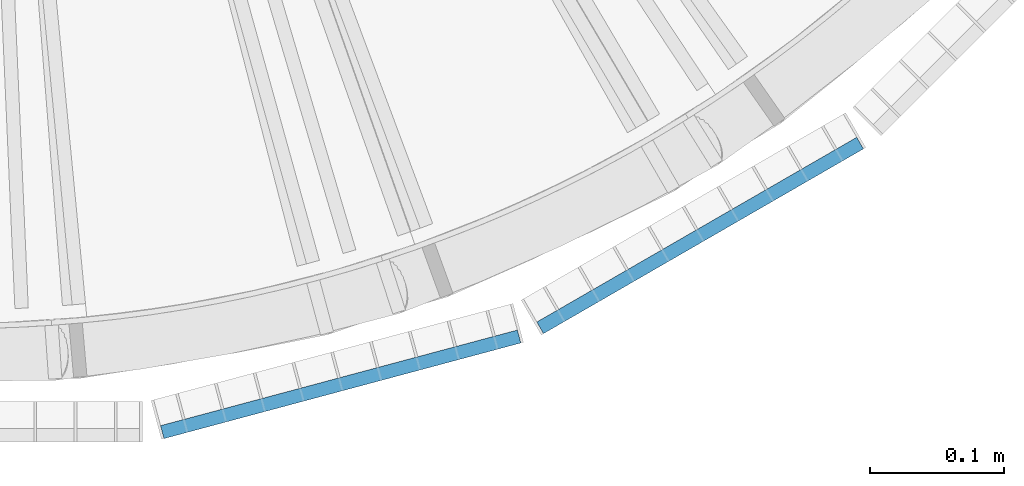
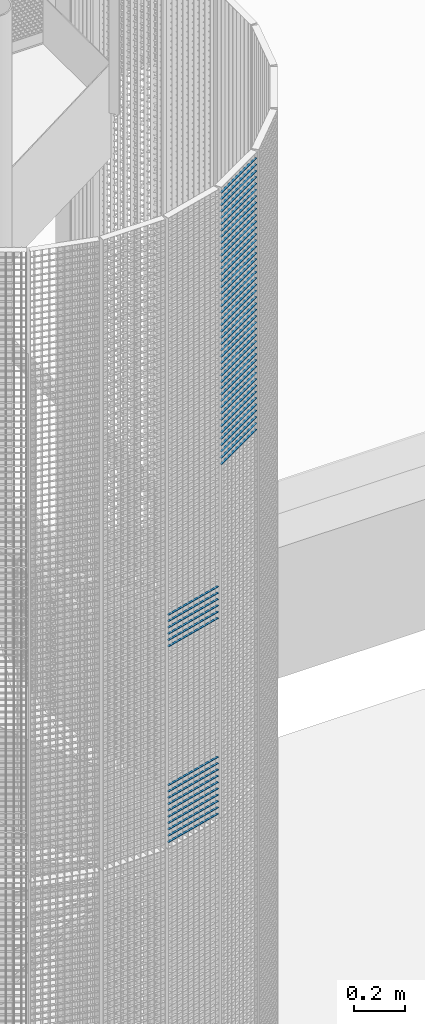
# One storey, part 378 of 1148: 60 beams, 2 elements without a shape of their own.
"""IFC2X3 building model written with IfcOpenShell, lengths in millimetres."""

from ifc_helpers import new_model, si_unit, frame, origin_with_axes, origin_2d_with_axis, place, context, subcontext, project, spatial, rectangle, extrude, material, type_object, element, aggregate, save


model = new_model("IFC2X3")

# Units and contexts
model_context = context("Model", 3, precision=1e-05, world=origin_with_axes())
body_context = subcontext(model_context, "Body", "Model", "MODEL_VIEW")
ifc_project = project(units=[si_unit("LENGTHUNIT", "METRE", prefix="MILLI"), si_unit("AREAUNIT", "SQUARE_METRE"), si_unit("VOLUMEUNIT", "CUBIC_METRE"), si_unit("MASSUNIT", "GRAM", prefix="KILO"), si_unit("TIMEUNIT", "SECOND"), si_unit("PLANEANGLEUNIT", "RADIAN"), si_unit("SOLIDANGLEUNIT", "STERADIAN"), si_unit("THERMODYNAMICTEMPERATUREUNIT", "DEGREE_CELSIUS"), si_unit("LUMINOUSINTENSITYUNIT", "LUMEN")], contexts=[model_context])

# Site, building, storey
site_placement = place(None, origin_with_axes())
site = spatial("IfcSite", under=ifc_project, at=site_placement, Name="Undefined", CompositionType="ELEMENT")
building_placement = place(site_placement, origin_with_axes())
building = spatial("IfcBuilding", under=site, at=building_placement, Name="Undefined", CompositionType="ELEMENT")
storey_placement = place(building_placement, origin_with_axes())
storey = spatial("IfcBuildingStorey", under=building, at=storey_placement, Name="Undefined", CompositionType="ELEMENT", Elevation=0.0)

# Assembly, beams
assembly_1_placement = place(storey_placement, origin_with_axes())
assembly_1 = element("IfcElementAssembly", 1, at=assembly_1_placement, inside=storey, Name="BORDURE", AssemblyPlace="NOTDEFINED", PredefinedType="NOTDEFINED")
ifc_material = material(Name="STEEL/S235JR")
beam_type = type_object("IfcBeamType", Name="PL2*10", PredefinedType="NOTDEFINED")
beam_1_placement = place(assembly_1_placement, frame((22021.4837339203, -1039.82309522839, 15960.0), z_axis=(0.258819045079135, -0.965925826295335, 0.0), x_axis=(-0.965925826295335, -0.258819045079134, 0.0)))
beam_1 = element("IfcBeam", 2, at=beam_1_placement, type_object=beam_type, material=ifc_material, Name="ENTRETOISE", context=body_context, shape_type="SweptSolid", body=[
    extrude(rectangle(XDim=2.0, YDim=10.0, at=origin_2d_with_axis()), frame((275.999999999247, 9.09494701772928e-13, 1.53210777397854e-14), z_axis=(-1.0, 0.0, 0.0), x_axis=(0.0, -1.0, 0.0)), (0.0, 0.0, 1.0), 276.0),
])
beam_2_placement = place(assembly_1_placement, frame((22021.4837339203, -1039.82309522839, 15300.0), z_axis=(0.258819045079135, -0.965925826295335, 0.0), x_axis=(-0.965925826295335, -0.258819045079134, 0.0)))
beam_2 = element("IfcBeam", 3, at=beam_2_placement, type_object=beam_type, material=ifc_material, Name="ENTRETOISE", context=body_context, shape_type="SweptSolid", body=[
    extrude(rectangle(XDim=2.0, YDim=10.0, at=origin_2d_with_axis()), frame((275.999999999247, 9.09494701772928e-13, 1.53210777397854e-14), z_axis=(-1.0, 0.0, 0.0), x_axis=(0.0, -1.0, 0.0)), (0.0, 0.0, 1.0), 276.0),
])
beam_3_placement = place(assembly_1_placement, frame((22021.4837339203, -1039.82309522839, 15270.0), z_axis=(0.258819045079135, -0.965925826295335, 0.0), x_axis=(-0.965925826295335, -0.258819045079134, 0.0)))
beam_3 = element("IfcBeam", 4, at=beam_3_placement, type_object=beam_type, material=ifc_material, Name="ENTRETOISE", context=body_context, shape_type="SweptSolid", body=[
    extrude(rectangle(XDim=2.0, YDim=10.0, at=origin_2d_with_axis()), frame((275.999999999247, 9.09494701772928e-13, 1.53210777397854e-14), z_axis=(-1.0, 0.0, 0.0), x_axis=(0.0, -1.0, 0.0)), (0.0, 0.0, 1.0), 276.0),
])
beam_4_placement = place(assembly_1_placement, frame((22021.4837339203, -1039.82309522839, 15990.0), z_axis=(0.258819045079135, -0.965925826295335, 0.0), x_axis=(-0.965925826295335, -0.258819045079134, 0.0)))
beam_4 = element("IfcBeam", 5, at=beam_4_placement, type_object=beam_type, material=ifc_material, Name="ENTRETOISE", context=body_context, shape_type="SweptSolid", body=[
    extrude(rectangle(XDim=2.0, YDim=10.0, at=origin_2d_with_axis()), frame((275.999999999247, 9.09494701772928e-13, 1.53210777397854e-14), z_axis=(-1.0, 0.0, 0.0), x_axis=(0.0, -1.0, 0.0)), (0.0, 0.0, 1.0), 276.0),
])
beam_5_placement = place(assembly_1_placement, frame((22021.4837339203, -1039.82309522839, 15240.0), z_axis=(0.258819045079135, -0.965925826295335, 0.0), x_axis=(-0.965925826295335, -0.258819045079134, 0.0)))
beam_5 = element("IfcBeam", 6, at=beam_5_placement, type_object=beam_type, material=ifc_material, Name="ENTRETOISE", context=body_context, shape_type="SweptSolid", body=[
    extrude(rectangle(XDim=2.0, YDim=10.0, at=origin_2d_with_axis()), frame((275.999999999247, 9.09494701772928e-13, 1.53210777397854e-14), z_axis=(-1.0, 0.0, 0.0), x_axis=(0.0, -1.0, 0.0)), (0.0, 0.0, 1.0), 276.0),
])
beam_6_placement = place(assembly_1_placement, frame((22021.4837339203, -1039.82309522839, 16020.0), z_axis=(0.258819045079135, -0.965925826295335, 0.0), x_axis=(-0.965925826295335, -0.258819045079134, 0.0)))
beam_6 = element("IfcBeam", 7, at=beam_6_placement, type_object=beam_type, material=ifc_material, Name="ENTRETOISE", context=body_context, shape_type="SweptSolid", body=[
    extrude(rectangle(XDim=2.0, YDim=10.0, at=origin_2d_with_axis()), frame((275.999999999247, 9.09494701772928e-13, 1.53210777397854e-14), z_axis=(-1.0, 0.0, 0.0), x_axis=(0.0, -1.0, 0.0)), (0.0, 0.0, 1.0), 276.0),
])
beam_7_placement = place(assembly_1_placement, frame((22021.4837339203, -1039.82309522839, 15210.0), z_axis=(0.258819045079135, -0.965925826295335, 0.0), x_axis=(-0.965925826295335, -0.258819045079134, 0.0)))
beam_7 = element("IfcBeam", 8, at=beam_7_placement, type_object=beam_type, material=ifc_material, Name="ENTRETOISE", context=body_context, shape_type="SweptSolid", body=[
    extrude(rectangle(XDim=2.0, YDim=10.0, at=origin_2d_with_axis()), frame((275.999999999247, 9.09494701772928e-13, 1.53210777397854e-14), z_axis=(-1.0, 0.0, 0.0), x_axis=(0.0, -1.0, 0.0)), (0.0, 0.0, 1.0), 276.0),
])
beam_8_placement = place(assembly_1_placement, frame((22021.4837339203, -1039.82309522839, 15180.0), z_axis=(0.258819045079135, -0.965925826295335, 0.0), x_axis=(-0.965925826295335, -0.258819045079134, 0.0)))
beam_8 = element("IfcBeam", 9, at=beam_8_placement, type_object=beam_type, material=ifc_material, Name="ENTRETOISE", context=body_context, shape_type="SweptSolid", body=[
    extrude(rectangle(XDim=2.0, YDim=10.0, at=origin_2d_with_axis()), frame((275.999999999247, 9.09494701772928e-13, 1.53210777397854e-14), z_axis=(-1.0, 0.0, 0.0), x_axis=(0.0, -1.0, 0.0)), (0.0, 0.0, 1.0), 276.0),
])
beam_9_placement = place(assembly_1_placement, frame((22021.4837339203, -1039.82309522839, 16050.0), z_axis=(0.258819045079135, -0.965925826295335, 0.0), x_axis=(-0.965925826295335, -0.258819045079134, 0.0)))
beam_9 = element("IfcBeam", 10, at=beam_9_placement, type_object=beam_type, material=ifc_material, Name="ENTRETOISE", context=body_context, shape_type="SweptSolid", body=[
    extrude(rectangle(XDim=2.0, YDim=10.0, at=origin_2d_with_axis()), frame((275.999999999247, 9.09494701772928e-13, 1.53210777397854e-14), z_axis=(-1.0, 0.0, 0.0), x_axis=(0.0, -1.0, 0.0)), (0.0, 0.0, 1.0), 276.0),
])
beam_10_placement = place(assembly_1_placement, frame((22021.4837339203, -1039.82309522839, 15150.0), z_axis=(0.258819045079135, -0.965925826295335, 0.0), x_axis=(-0.965925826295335, -0.258819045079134, 0.0)))
beam_10 = element("IfcBeam", 11, at=beam_10_placement, type_object=beam_type, material=ifc_material, Name="ENTRETOISE", context=body_context, shape_type="SweptSolid", body=[
    extrude(rectangle(XDim=2.0, YDim=10.0, at=origin_2d_with_axis()), frame((275.999999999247, 9.09494701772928e-13, 1.53210777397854e-14), z_axis=(-1.0, 0.0, 0.0), x_axis=(0.0, -1.0, 0.0)), (0.0, 0.0, 1.0), 276.0),
])
beam_11_placement = place(assembly_1_placement, frame((22021.4837339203, -1039.82309522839, 15120.0), z_axis=(0.258819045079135, -0.965925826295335, 0.0), x_axis=(-0.965925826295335, -0.258819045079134, 0.0)))
beam_11 = element("IfcBeam", 12, at=beam_11_placement, type_object=beam_type, material=ifc_material, Name="ENTRETOISE", context=body_context, shape_type="SweptSolid", body=[
    extrude(rectangle(XDim=2.0, YDim=10.0, at=origin_2d_with_axis()), frame((275.999999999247, 9.09494701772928e-13, 1.53210777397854e-14), z_axis=(-1.0, 0.0, 0.0), x_axis=(0.0, -1.0, 0.0)), (0.0, 0.0, 1.0), 276.0),
])
beam_12_placement = place(assembly_1_placement, frame((22021.4837339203, -1039.82309522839, 16080.0), z_axis=(0.258819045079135, -0.965925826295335, 0.0), x_axis=(-0.965925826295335, -0.258819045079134, 0.0)))
beam_12 = element("IfcBeam", 13, at=beam_12_placement, type_object=beam_type, material=ifc_material, Name="ENTRETOISE", context=body_context, shape_type="SweptSolid", body=[
    extrude(rectangle(XDim=2.0, YDim=10.0, at=origin_2d_with_axis()), frame((275.999999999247, 9.09494701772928e-13, 1.53210777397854e-14), z_axis=(-1.0, 0.0, 0.0), x_axis=(0.0, -1.0, 0.0)), (0.0, 0.0, 1.0), 276.0),
])
beam_13_placement = place(assembly_1_placement, frame((22021.4837339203, -1039.82309522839, 15090.0), z_axis=(0.258819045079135, -0.965925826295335, 0.0), x_axis=(-0.965925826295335, -0.258819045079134, 0.0)))
beam_13 = element("IfcBeam", 14, at=beam_13_placement, type_object=beam_type, material=ifc_material, Name="ENTRETOISE", context=body_context, shape_type="SweptSolid", body=[
    extrude(rectangle(XDim=2.0, YDim=10.0, at=origin_2d_with_axis()), frame((275.999999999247, 9.09494701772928e-13, 1.53210777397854e-14), z_axis=(-1.0, 0.0, 0.0), x_axis=(0.0, -1.0, 0.0)), (0.0, 0.0, 1.0), 276.0),
])
beam_14_placement = place(assembly_1_placement, frame((22021.4837339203, -1039.82309522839, 15060.0), z_axis=(0.258819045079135, -0.965925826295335, 0.0), x_axis=(-0.965925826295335, -0.258819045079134, 0.0)))
beam_14 = element("IfcBeam", 15, at=beam_14_placement, type_object=beam_type, material=ifc_material, Name="ENTRETOISE", context=body_context, shape_type="SweptSolid", body=[
    extrude(rectangle(XDim=2.0, YDim=10.0, at=origin_2d_with_axis()), frame((275.999999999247, 9.09494701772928e-13, 1.53210777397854e-14), z_axis=(-1.0, 0.0, 0.0), x_axis=(0.0, -1.0, 0.0)), (0.0, 0.0, 1.0), 276.0),
])
beam_15_placement = place(assembly_1_placement, frame((22021.4837339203, -1039.82309522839, 16110.0), z_axis=(0.258819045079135, -0.965925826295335, 0.0), x_axis=(-0.965925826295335, -0.258819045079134, 0.0)))
beam_15 = element("IfcBeam", 16, at=beam_15_placement, type_object=beam_type, material=ifc_material, Name="ENTRETOISE", context=body_context, shape_type="SweptSolid", body=[
    extrude(rectangle(XDim=2.0, YDim=10.0, at=origin_2d_with_axis()), frame((275.999999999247, 9.09494701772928e-13, 1.53210777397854e-14), z_axis=(-1.0, 0.0, 0.0), x_axis=(0.0, -1.0, 0.0)), (0.0, 0.0, 1.0), 276.0),
])
beam_16_placement = place(assembly_1_placement, frame((22021.4837339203, -1039.82309522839, 15030.0), z_axis=(0.258819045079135, -0.965925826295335, 0.0), x_axis=(-0.965925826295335, -0.258819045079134, 0.0)))
beam_16 = element("IfcBeam", 17, at=beam_16_placement, type_object=beam_type, material=ifc_material, Name="ENTRETOISE", context=body_context, shape_type="SweptSolid", body=[
    extrude(rectangle(XDim=2.0, YDim=10.0, at=origin_2d_with_axis()), frame((275.999999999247, 9.09494701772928e-13, 1.53210777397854e-14), z_axis=(-1.0, 0.0, 0.0), x_axis=(0.0, -1.0, 0.0)), (0.0, 0.0, 1.0), 276.0),
])
aggregate(assembly_1, [beam_1, beam_2, beam_3, beam_4, beam_5, beam_6, beam_7, beam_8, beam_9, beam_10, beam_11, beam_12, beam_13, beam_14, beam_15, beam_16])

assembly_2_placement = place(storey_placement, origin_with_axes())
assembly_2 = element("IfcElementAssembly", 18, at=assembly_2_placement, inside=storey, Name="BORDURE", AssemblyPlace="NOTDEFINED", PredefinedType="NOTDEFINED")
beam_17_placement = place(assembly_2_placement, frame((22276.2480445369, -895.303964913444, 17970.0), z_axis=(0.499999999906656, -0.866025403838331, 0.0), x_axis=(-0.866025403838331, -0.499999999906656, 0.0)))
beam_17 = element("IfcBeam", 19, at=beam_17_placement, type_object=beam_type, material=ifc_material, Name="ENTRETOISE", context=body_context, shape_type="SweptSolid", body=[
    extrude(rectangle(XDim=2.0, YDim=10.0, at=origin_2d_with_axis()), frame((275.999999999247, 9.09494701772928e-13, 1.53210777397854e-14), z_axis=(-1.0, 0.0, 0.0), x_axis=(0.0, -1.0, 0.0)), (0.0, 0.0, 1.0), 276.0),
])
beam_18_placement = place(assembly_2_placement, frame((22276.2480445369, -895.303964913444, 17940.0), z_axis=(0.499999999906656, -0.866025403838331, 0.0), x_axis=(-0.866025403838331, -0.499999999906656, 0.0)))
beam_18 = element("IfcBeam", 20, at=beam_18_placement, type_object=beam_type, material=ifc_material, Name="ENTRETOISE", context=body_context, shape_type="SweptSolid", body=[
    extrude(rectangle(XDim=2.0, YDim=10.0, at=origin_2d_with_axis()), frame((275.999999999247, 9.09494701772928e-13, 1.53210777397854e-14), z_axis=(-1.0, 0.0, 0.0), x_axis=(0.0, -1.0, 0.0)), (0.0, 0.0, 1.0), 276.0),
])
beam_19_placement = place(assembly_2_placement, frame((22276.2480445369, -895.303964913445, 17910.0), z_axis=(0.499999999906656, -0.866025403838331, 0.0), x_axis=(-0.866025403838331, -0.499999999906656, 0.0)))
beam_19 = element("IfcBeam", 21, at=beam_19_placement, type_object=beam_type, material=ifc_material, Name="ENTRETOISE", context=body_context, shape_type="SweptSolid", body=[
    extrude(rectangle(XDim=2.0, YDim=10.0, at=origin_2d_with_axis()), frame((275.999999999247, 9.09494701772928e-13, 1.53210777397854e-14), z_axis=(-1.0, 0.0, 0.0), x_axis=(0.0, -1.0, 0.0)), (0.0, 0.0, 1.0), 276.0),
])
beam_20_placement = place(assembly_2_placement, frame((22276.2480445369, -895.303964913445, 17880.0), z_axis=(0.499999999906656, -0.866025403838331, 0.0), x_axis=(-0.866025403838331, -0.499999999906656, 0.0)))
beam_20 = element("IfcBeam", 22, at=beam_20_placement, type_object=beam_type, material=ifc_material, Name="ENTRETOISE", context=body_context, shape_type="SweptSolid", body=[
    extrude(rectangle(XDim=2.0, YDim=10.0, at=origin_2d_with_axis()), frame((275.999999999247, 9.09494701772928e-13, 1.53210777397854e-14), z_axis=(-1.0, 0.0, 0.0), x_axis=(0.0, -1.0, 0.0)), (0.0, 0.0, 1.0), 276.0),
])
beam_21_placement = place(assembly_2_placement, frame((22276.2480445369, -895.303964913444, 17850.0), z_axis=(0.499999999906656, -0.866025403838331, 0.0), x_axis=(-0.866025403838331, -0.499999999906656, 0.0)))
beam_21 = element("IfcBeam", 23, at=beam_21_placement, type_object=beam_type, material=ifc_material, Name="ENTRETOISE", context=body_context, shape_type="SweptSolid", body=[
    extrude(rectangle(XDim=2.0, YDim=10.0, at=origin_2d_with_axis()), frame((275.999999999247, 9.09494701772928e-13, 1.53210777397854e-14), z_axis=(-1.0, 0.0, 0.0), x_axis=(0.0, -1.0, 0.0)), (0.0, 0.0, 1.0), 276.0),
])
beam_22_placement = place(assembly_2_placement, frame((22276.2480445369, -895.303964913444, 17820.0), z_axis=(0.499999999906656, -0.866025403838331, 0.0), x_axis=(-0.866025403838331, -0.499999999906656, 0.0)))
beam_22 = element("IfcBeam", 24, at=beam_22_placement, type_object=beam_type, material=ifc_material, Name="ENTRETOISE", context=body_context, shape_type="SweptSolid", body=[
    extrude(rectangle(XDim=2.0, YDim=10.0, at=origin_2d_with_axis()), frame((275.999999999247, 9.09494701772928e-13, 1.53210777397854e-14), z_axis=(-1.0, 0.0, 0.0), x_axis=(0.0, -1.0, 0.0)), (0.0, 0.0, 1.0), 276.0),
])
beam_23_placement = place(assembly_2_placement, frame((22276.2480445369, -895.303964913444, 17790.0), z_axis=(0.499999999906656, -0.866025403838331, 0.0), x_axis=(-0.866025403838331, -0.499999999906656, 0.0)))
beam_23 = element("IfcBeam", 25, at=beam_23_placement, type_object=beam_type, material=ifc_material, Name="ENTRETOISE", context=body_context, shape_type="SweptSolid", body=[
    extrude(rectangle(XDim=2.0, YDim=10.0, at=origin_2d_with_axis()), frame((275.999999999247, 9.09494701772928e-13, 1.53210777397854e-14), z_axis=(-1.0, 0.0, 0.0), x_axis=(0.0, -1.0, 0.0)), (0.0, 0.0, 1.0), 276.0),
])
beam_24_placement = place(assembly_2_placement, frame((22276.2480445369, -895.303964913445, 17760.0), z_axis=(0.499999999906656, -0.866025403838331, 0.0), x_axis=(-0.866025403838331, -0.499999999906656, 0.0)))
beam_24 = element("IfcBeam", 26, at=beam_24_placement, type_object=beam_type, material=ifc_material, Name="ENTRETOISE", context=body_context, shape_type="SweptSolid", body=[
    extrude(rectangle(XDim=2.0, YDim=10.0, at=origin_2d_with_axis()), frame((275.999999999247, 9.09494701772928e-13, 1.53210777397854e-14), z_axis=(-1.0, 0.0, 0.0), x_axis=(0.0, -1.0, 0.0)), (0.0, 0.0, 1.0), 276.0),
])
beam_25_placement = place(assembly_2_placement, frame((22276.2480445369, -895.303964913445, 17730.0), z_axis=(0.499999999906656, -0.866025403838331, 0.0), x_axis=(-0.866025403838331, -0.499999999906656, 0.0)))
beam_25 = element("IfcBeam", 27, at=beam_25_placement, type_object=beam_type, material=ifc_material, Name="ENTRETOISE", context=body_context, shape_type="SweptSolid", body=[
    extrude(rectangle(XDim=2.0, YDim=10.0, at=origin_2d_with_axis()), frame((275.999999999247, 9.09494701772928e-13, 1.53210777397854e-14), z_axis=(-1.0, 0.0, 0.0), x_axis=(0.0, -1.0, 0.0)), (0.0, 0.0, 1.0), 276.0),
])
beam_26_placement = place(assembly_2_placement, frame((22276.2480445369, -895.303964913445, 17700.0), z_axis=(0.499999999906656, -0.866025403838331, 0.0), x_axis=(-0.866025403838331, -0.499999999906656, 0.0)))
beam_26 = element("IfcBeam", 28, at=beam_26_placement, type_object=beam_type, material=ifc_material, Name="ENTRETOISE", context=body_context, shape_type="SweptSolid", body=[
    extrude(rectangle(XDim=2.0, YDim=10.0, at=origin_2d_with_axis()), frame((275.999999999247, 9.09494701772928e-13, 1.53210777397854e-14), z_axis=(-1.0, 0.0, 0.0), x_axis=(0.0, -1.0, 0.0)), (0.0, 0.0, 1.0), 276.0),
])
beam_27_placement = place(assembly_2_placement, frame((22276.2480445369, -895.303964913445, 17670.0), z_axis=(0.499999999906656, -0.866025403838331, 0.0), x_axis=(-0.866025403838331, -0.499999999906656, 0.0)))
beam_27 = element("IfcBeam", 29, at=beam_27_placement, type_object=beam_type, material=ifc_material, Name="ENTRETOISE", context=body_context, shape_type="SweptSolid", body=[
    extrude(rectangle(XDim=2.0, YDim=10.0, at=origin_2d_with_axis()), frame((275.999999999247, 9.09494701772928e-13, 1.53210777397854e-14), z_axis=(-1.0, 0.0, 0.0), x_axis=(0.0, -1.0, 0.0)), (0.0, 0.0, 1.0), 276.0),
])
beam_28_placement = place(assembly_2_placement, frame((22276.2480445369, -895.303964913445, 17640.0), z_axis=(0.499999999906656, -0.866025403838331, 0.0), x_axis=(-0.866025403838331, -0.499999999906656, 0.0)))
beam_28 = element("IfcBeam", 30, at=beam_28_placement, type_object=beam_type, material=ifc_material, Name="ENTRETOISE", context=body_context, shape_type="SweptSolid", body=[
    extrude(rectangle(XDim=2.0, YDim=10.0, at=origin_2d_with_axis()), frame((275.999999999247, 9.09494701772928e-13, 1.53210777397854e-14), z_axis=(-1.0, 0.0, 0.0), x_axis=(0.0, -1.0, 0.0)), (0.0, 0.0, 1.0), 276.0),
])
beam_29_placement = place(assembly_2_placement, frame((22276.2480445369, -895.303964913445, 17610.0), z_axis=(0.499999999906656, -0.866025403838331, 0.0), x_axis=(-0.866025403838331, -0.499999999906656, 0.0)))
beam_29 = element("IfcBeam", 31, at=beam_29_placement, type_object=beam_type, material=ifc_material, Name="ENTRETOISE", context=body_context, shape_type="SweptSolid", body=[
    extrude(rectangle(XDim=2.0, YDim=10.0, at=origin_2d_with_axis()), frame((275.999999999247, 9.09494701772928e-13, 1.53210777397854e-14), z_axis=(-1.0, 0.0, 0.0), x_axis=(0.0, -1.0, 0.0)), (0.0, 0.0, 1.0), 276.0),
])
beam_30_placement = place(assembly_2_placement, frame((22276.2480445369, -895.303964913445, 17580.0), z_axis=(0.499999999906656, -0.866025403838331, 0.0), x_axis=(-0.866025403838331, -0.499999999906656, 0.0)))
beam_30 = element("IfcBeam", 32, at=beam_30_placement, type_object=beam_type, material=ifc_material, Name="ENTRETOISE", context=body_context, shape_type="SweptSolid", body=[
    extrude(rectangle(XDim=2.0, YDim=10.0, at=origin_2d_with_axis()), frame((275.999999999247, 9.09494701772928e-13, 1.53210777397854e-14), z_axis=(-1.0, 0.0, 0.0), x_axis=(0.0, -1.0, 0.0)), (0.0, 0.0, 1.0), 276.0),
])
beam_31_placement = place(assembly_2_placement, frame((22276.2480445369, -895.303964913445, 17550.0), z_axis=(0.499999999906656, -0.866025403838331, 0.0), x_axis=(-0.866025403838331, -0.499999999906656, 0.0)))
beam_31 = element("IfcBeam", 33, at=beam_31_placement, type_object=beam_type, material=ifc_material, Name="ENTRETOISE", context=body_context, shape_type="SweptSolid", body=[
    extrude(rectangle(XDim=2.0, YDim=10.0, at=origin_2d_with_axis()), frame((275.999999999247, 9.09494701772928e-13, 1.53210777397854e-14), z_axis=(-1.0, 0.0, 0.0), x_axis=(0.0, -1.0, 0.0)), (0.0, 0.0, 1.0), 276.0),
])
beam_32_placement = place(assembly_2_placement, frame((22276.2480445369, -895.303964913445, 17520.0), z_axis=(0.499999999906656, -0.866025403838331, 0.0), x_axis=(-0.866025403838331, -0.499999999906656, 0.0)))
beam_32 = element("IfcBeam", 34, at=beam_32_placement, type_object=beam_type, material=ifc_material, Name="ENTRETOISE", context=body_context, shape_type="SweptSolid", body=[
    extrude(rectangle(XDim=2.0, YDim=10.0, at=origin_2d_with_axis()), frame((275.999999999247, 9.09494701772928e-13, 1.53210777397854e-14), z_axis=(-1.0, 0.0, 0.0), x_axis=(0.0, -1.0, 0.0)), (0.0, 0.0, 1.0), 276.0),
])
beam_33_placement = place(assembly_2_placement, frame((22276.2480445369, -895.303964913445, 17490.0), z_axis=(0.499999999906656, -0.866025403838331, 0.0), x_axis=(-0.866025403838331, -0.499999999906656, 0.0)))
beam_33 = element("IfcBeam", 35, at=beam_33_placement, type_object=beam_type, material=ifc_material, Name="ENTRETOISE", context=body_context, shape_type="SweptSolid", body=[
    extrude(rectangle(XDim=2.0, YDim=10.0, at=origin_2d_with_axis()), frame((275.999999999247, 9.09494701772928e-13, 1.53210777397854e-14), z_axis=(-1.0, 0.0, 0.0), x_axis=(0.0, -1.0, 0.0)), (0.0, 0.0, 1.0), 276.0),
])
beam_34_placement = place(assembly_2_placement, frame((22276.2480445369, -895.303964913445, 17460.0), z_axis=(0.499999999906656, -0.866025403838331, 0.0), x_axis=(-0.866025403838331, -0.499999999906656, 0.0)))
beam_34 = element("IfcBeam", 36, at=beam_34_placement, type_object=beam_type, material=ifc_material, Name="ENTRETOISE", context=body_context, shape_type="SweptSolid", body=[
    extrude(rectangle(XDim=2.0, YDim=10.0, at=origin_2d_with_axis()), frame((275.999999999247, 9.09494701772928e-13, 1.53210777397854e-14), z_axis=(-1.0, 0.0, 0.0), x_axis=(0.0, -1.0, 0.0)), (0.0, 0.0, 1.0), 276.0),
])
beam_35_placement = place(assembly_2_placement, frame((22276.2480445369, -895.303964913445, 17430.0), z_axis=(0.499999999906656, -0.866025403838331, 0.0), x_axis=(-0.866025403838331, -0.499999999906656, 0.0)))
beam_35 = element("IfcBeam", 37, at=beam_35_placement, type_object=beam_type, material=ifc_material, Name="ENTRETOISE", context=body_context, shape_type="SweptSolid", body=[
    extrude(rectangle(XDim=2.0, YDim=10.0, at=origin_2d_with_axis()), frame((275.999999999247, 9.09494701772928e-13, 1.53210777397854e-14), z_axis=(-1.0, 0.0, 0.0), x_axis=(0.0, -1.0, 0.0)), (0.0, 0.0, 1.0), 276.0),
])
beam_36_placement = place(assembly_2_placement, frame((22276.2480445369, -895.303964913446, 17400.0), z_axis=(0.499999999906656, -0.866025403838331, 0.0), x_axis=(-0.866025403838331, -0.499999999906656, 0.0)))
beam_36 = element("IfcBeam", 38, at=beam_36_placement, type_object=beam_type, material=ifc_material, Name="ENTRETOISE", context=body_context, shape_type="SweptSolid", body=[
    extrude(rectangle(XDim=2.0, YDim=10.0, at=origin_2d_with_axis()), frame((275.999999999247, 9.09494701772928e-13, 1.53210777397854e-14), z_axis=(-1.0, 0.0, 0.0), x_axis=(0.0, -1.0, 0.0)), (0.0, 0.0, 1.0), 276.0),
])
beam_37_placement = place(assembly_2_placement, frame((22276.2480445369, -895.303964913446, 17370.0), z_axis=(0.499999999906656, -0.866025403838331, 0.0), x_axis=(-0.866025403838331, -0.499999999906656, 0.0)))
beam_37 = element("IfcBeam", 39, at=beam_37_placement, type_object=beam_type, material=ifc_material, Name="ENTRETOISE", context=body_context, shape_type="SweptSolid", body=[
    extrude(rectangle(XDim=2.0, YDim=10.0, at=origin_2d_with_axis()), frame((275.999999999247, 9.09494701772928e-13, 1.53210777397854e-14), z_axis=(-1.0, 0.0, 0.0), x_axis=(0.0, -1.0, 0.0)), (0.0, 0.0, 1.0), 276.0),
])
beam_38_placement = place(assembly_2_placement, frame((22276.2480445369, -895.303964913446, 17340.0), z_axis=(0.499999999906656, -0.866025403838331, 0.0), x_axis=(-0.866025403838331, -0.499999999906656, 0.0)))
beam_38 = element("IfcBeam", 40, at=beam_38_placement, type_object=beam_type, material=ifc_material, Name="ENTRETOISE", context=body_context, shape_type="SweptSolid", body=[
    extrude(rectangle(XDim=2.0, YDim=10.0, at=origin_2d_with_axis()), frame((275.999999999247, 9.09494701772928e-13, 1.53210777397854e-14), z_axis=(-1.0, 0.0, 0.0), x_axis=(0.0, -1.0, 0.0)), (0.0, 0.0, 1.0), 276.0),
])
beam_39_placement = place(assembly_2_placement, frame((22276.2480445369, -895.303964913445, 17310.0), z_axis=(0.499999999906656, -0.866025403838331, 0.0), x_axis=(-0.866025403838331, -0.499999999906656, 0.0)))
beam_39 = element("IfcBeam", 41, at=beam_39_placement, type_object=beam_type, material=ifc_material, Name="ENTRETOISE", context=body_context, shape_type="SweptSolid", body=[
    extrude(rectangle(XDim=2.0, YDim=10.0, at=origin_2d_with_axis()), frame((275.999999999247, 9.09494701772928e-13, 1.53210777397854e-14), z_axis=(-1.0, 0.0, 0.0), x_axis=(0.0, -1.0, 0.0)), (0.0, 0.0, 1.0), 276.0),
])
beam_40_placement = place(assembly_2_placement, frame((22276.2480445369, -895.303964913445, 17280.0), z_axis=(0.499999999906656, -0.866025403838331, 0.0), x_axis=(-0.866025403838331, -0.499999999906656, 0.0)))
beam_40 = element("IfcBeam", 42, at=beam_40_placement, type_object=beam_type, material=ifc_material, Name="ENTRETOISE", context=body_context, shape_type="SweptSolid", body=[
    extrude(rectangle(XDim=2.0, YDim=10.0, at=origin_2d_with_axis()), frame((275.999999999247, 9.09494701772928e-13, 1.53210777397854e-14), z_axis=(-1.0, 0.0, 0.0), x_axis=(0.0, -1.0, 0.0)), (0.0, 0.0, 1.0), 276.0),
])
beam_41_placement = place(assembly_2_placement, frame((22276.2480445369, -895.303964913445, 17250.0), z_axis=(0.499999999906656, -0.866025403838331, 0.0), x_axis=(-0.866025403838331, -0.499999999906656, 0.0)))
beam_41 = element("IfcBeam", 43, at=beam_41_placement, type_object=beam_type, material=ifc_material, Name="ENTRETOISE", context=body_context, shape_type="SweptSolid", body=[
    extrude(rectangle(XDim=2.0, YDim=10.0, at=origin_2d_with_axis()), frame((275.999999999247, 9.09494701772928e-13, 1.53210777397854e-14), z_axis=(-1.0, 0.0, 0.0), x_axis=(0.0, -1.0, 0.0)), (0.0, 0.0, 1.0), 276.0),
])
beam_42_placement = place(assembly_2_placement, frame((22276.2480445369, -895.303964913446, 17220.0), z_axis=(0.499999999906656, -0.866025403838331, 0.0), x_axis=(-0.866025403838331, -0.499999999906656, 0.0)))
beam_42 = element("IfcBeam", 44, at=beam_42_placement, type_object=beam_type, material=ifc_material, Name="ENTRETOISE", context=body_context, shape_type="SweptSolid", body=[
    extrude(rectangle(XDim=2.0, YDim=10.0, at=origin_2d_with_axis()), frame((275.999999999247, 9.09494701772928e-13, 1.53210777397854e-14), z_axis=(-1.0, 0.0, 0.0), x_axis=(0.0, -1.0, 0.0)), (0.0, 0.0, 1.0), 276.0),
])
beam_43_placement = place(assembly_2_placement, frame((22276.2480445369, -895.303964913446, 17190.0), z_axis=(0.499999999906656, -0.866025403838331, 0.0), x_axis=(-0.866025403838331, -0.499999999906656, 0.0)))
beam_43 = element("IfcBeam", 45, at=beam_43_placement, type_object=beam_type, material=ifc_material, Name="ENTRETOISE", context=body_context, shape_type="SweptSolid", body=[
    extrude(rectangle(XDim=2.0, YDim=10.0, at=origin_2d_with_axis()), frame((275.999999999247, 9.09494701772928e-13, 1.53210777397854e-14), z_axis=(-1.0, 0.0, 0.0), x_axis=(0.0, -1.0, 0.0)), (0.0, 0.0, 1.0), 276.0),
])
beam_44_placement = place(assembly_2_placement, frame((22276.2480445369, -895.303964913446, 17160.0), z_axis=(0.499999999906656, -0.866025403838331, 0.0), x_axis=(-0.866025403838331, -0.499999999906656, 0.0)))
beam_44 = element("IfcBeam", 46, at=beam_44_placement, type_object=beam_type, material=ifc_material, Name="ENTRETOISE", context=body_context, shape_type="SweptSolid", body=[
    extrude(rectangle(XDim=2.0, YDim=10.0, at=origin_2d_with_axis()), frame((275.999999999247, 9.09494701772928e-13, 1.53210777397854e-14), z_axis=(-1.0, 0.0, 0.0), x_axis=(0.0, -1.0, 0.0)), (0.0, 0.0, 1.0), 276.0),
])
beam_45_placement = place(assembly_2_placement, frame((22276.2480445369, -895.303964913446, 17130.0), z_axis=(0.499999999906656, -0.866025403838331, 0.0), x_axis=(-0.866025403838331, -0.499999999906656, 0.0)))
beam_45 = element("IfcBeam", 47, at=beam_45_placement, type_object=beam_type, material=ifc_material, Name="ENTRETOISE", context=body_context, shape_type="SweptSolid", body=[
    extrude(rectangle(XDim=2.0, YDim=10.0, at=origin_2d_with_axis()), frame((275.999999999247, 9.09494701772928e-13, 1.53210777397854e-14), z_axis=(-1.0, 0.0, 0.0), x_axis=(0.0, -1.0, 0.0)), (0.0, 0.0, 1.0), 276.0),
])
beam_46_placement = place(assembly_2_placement, frame((22276.2480445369, -895.303964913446, 17100.0), z_axis=(0.499999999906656, -0.866025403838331, 0.0), x_axis=(-0.866025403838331, -0.499999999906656, 0.0)))
beam_46 = element("IfcBeam", 48, at=beam_46_placement, type_object=beam_type, material=ifc_material, Name="ENTRETOISE", context=body_context, shape_type="SweptSolid", body=[
    extrude(rectangle(XDim=2.0, YDim=10.0, at=origin_2d_with_axis()), frame((275.999999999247, 9.09494701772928e-13, 1.53210777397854e-14), z_axis=(-1.0, 0.0, 0.0), x_axis=(0.0, -1.0, 0.0)), (0.0, 0.0, 1.0), 276.0),
])
beam_47_placement = place(assembly_2_placement, frame((22276.2480445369, -895.303964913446, 17070.0), z_axis=(0.499999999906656, -0.866025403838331, 0.0), x_axis=(-0.866025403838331, -0.499999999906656, 0.0)))
beam_47 = element("IfcBeam", 49, at=beam_47_placement, type_object=beam_type, material=ifc_material, Name="ENTRETOISE", context=body_context, shape_type="SweptSolid", body=[
    extrude(rectangle(XDim=2.0, YDim=10.0, at=origin_2d_with_axis()), frame((275.999999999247, 9.09494701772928e-13, 1.53210777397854e-14), z_axis=(-1.0, 0.0, 0.0), x_axis=(0.0, -1.0, 0.0)), (0.0, 0.0, 1.0), 276.0),
])
beam_48_placement = place(assembly_2_placement, frame((22276.2480445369, -895.303964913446, 17040.0), z_axis=(0.499999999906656, -0.866025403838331, 0.0), x_axis=(-0.866025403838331, -0.499999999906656, 0.0)))
beam_48 = element("IfcBeam", 50, at=beam_48_placement, type_object=beam_type, material=ifc_material, Name="ENTRETOISE", context=body_context, shape_type="SweptSolid", body=[
    extrude(rectangle(XDim=2.0, YDim=10.0, at=origin_2d_with_axis()), frame((275.999999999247, 9.09494701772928e-13, 1.53210777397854e-14), z_axis=(-1.0, 0.0, 0.0), x_axis=(0.0, -1.0, 0.0)), (0.0, 0.0, 1.0), 276.0),
])
beam_49_placement = place(assembly_2_placement, frame((22276.2480445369, -895.303964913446, 17010.0), z_axis=(0.499999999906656, -0.866025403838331, 0.0), x_axis=(-0.866025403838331, -0.499999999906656, 0.0)))
beam_49 = element("IfcBeam", 51, at=beam_49_placement, type_object=beam_type, material=ifc_material, Name="ENTRETOISE", context=body_context, shape_type="SweptSolid", body=[
    extrude(rectangle(XDim=2.0, YDim=10.0, at=origin_2d_with_axis()), frame((275.999999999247, 9.09494701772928e-13, 1.53210777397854e-14), z_axis=(-1.0, 0.0, 0.0), x_axis=(0.0, -1.0, 0.0)), (0.0, 0.0, 1.0), 276.0),
])
beam_50_placement = place(assembly_2_placement, frame((22276.2480445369, -895.303964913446, 16980.0), z_axis=(0.499999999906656, -0.866025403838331, 0.0), x_axis=(-0.866025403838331, -0.499999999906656, 0.0)))
beam_50 = element("IfcBeam", 52, at=beam_50_placement, type_object=beam_type, material=ifc_material, Name="ENTRETOISE", context=body_context, shape_type="SweptSolid", body=[
    extrude(rectangle(XDim=2.0, YDim=10.0, at=origin_2d_with_axis()), frame((275.999999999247, 9.09494701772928e-13, 1.53210777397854e-14), z_axis=(-1.0, 0.0, 0.0), x_axis=(0.0, -1.0, 0.0)), (0.0, 0.0, 1.0), 276.0),
])
beam_51_placement = place(assembly_2_placement, frame((22276.2480445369, -895.303964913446, 16950.0), z_axis=(0.499999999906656, -0.866025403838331, 0.0), x_axis=(-0.866025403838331, -0.499999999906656, 0.0)))
beam_51 = element("IfcBeam", 53, at=beam_51_placement, type_object=beam_type, material=ifc_material, Name="ENTRETOISE", context=body_context, shape_type="SweptSolid", body=[
    extrude(rectangle(XDim=2.0, YDim=10.0, at=origin_2d_with_axis()), frame((275.999999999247, 9.09494701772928e-13, 1.53210777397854e-14), z_axis=(-1.0, 0.0, 0.0), x_axis=(0.0, -1.0, 0.0)), (0.0, 0.0, 1.0), 276.0),
])
beam_52_placement = place(assembly_2_placement, frame((22276.2480445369, -895.303964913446, 16920.0), z_axis=(0.499999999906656, -0.866025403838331, 0.0), x_axis=(-0.866025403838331, -0.499999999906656, 0.0)))
beam_52 = element("IfcBeam", 54, at=beam_52_placement, type_object=beam_type, material=ifc_material, Name="ENTRETOISE", context=body_context, shape_type="SweptSolid", body=[
    extrude(rectangle(XDim=2.0, YDim=10.0, at=origin_2d_with_axis()), frame((275.999999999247, 9.09494701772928e-13, 1.53210777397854e-14), z_axis=(-1.0, 0.0, 0.0), x_axis=(0.0, -1.0, 0.0)), (0.0, 0.0, 1.0), 276.0),
])
beam_53_placement = place(assembly_2_placement, frame((22276.2480445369, -895.303964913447, 16890.0), z_axis=(0.499999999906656, -0.866025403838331, 0.0), x_axis=(-0.866025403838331, -0.499999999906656, 0.0)))
beam_53 = element("IfcBeam", 55, at=beam_53_placement, type_object=beam_type, material=ifc_material, Name="ENTRETOISE", context=body_context, shape_type="SweptSolid", body=[
    extrude(rectangle(XDim=2.0, YDim=10.0, at=origin_2d_with_axis()), frame((275.999999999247, 9.09494701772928e-13, 1.53210777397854e-14), z_axis=(-1.0, 0.0, 0.0), x_axis=(0.0, -1.0, 0.0)), (0.0, 0.0, 1.0), 276.0),
])
beam_54_placement = place(assembly_2_placement, frame((22276.2480445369, -895.303964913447, 16860.0), z_axis=(0.499999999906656, -0.866025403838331, 0.0), x_axis=(-0.866025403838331, -0.499999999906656, 0.0)))
beam_54 = element("IfcBeam", 56, at=beam_54_placement, type_object=beam_type, material=ifc_material, Name="ENTRETOISE", context=body_context, shape_type="SweptSolid", body=[
    extrude(rectangle(XDim=2.0, YDim=10.0, at=origin_2d_with_axis()), frame((275.999999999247, 9.09494701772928e-13, 1.53210777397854e-14), z_axis=(-1.0, 0.0, 0.0), x_axis=(0.0, -1.0, 0.0)), (0.0, 0.0, 1.0), 276.0),
])
beam_55_placement = place(assembly_2_placement, frame((22276.2480445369, -895.303964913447, 16830.0), z_axis=(0.499999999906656, -0.866025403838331, 0.0), x_axis=(-0.866025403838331, -0.499999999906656, 0.0)))
beam_55 = element("IfcBeam", 57, at=beam_55_placement, type_object=beam_type, material=ifc_material, Name="ENTRETOISE", context=body_context, shape_type="SweptSolid", body=[
    extrude(rectangle(XDim=2.0, YDim=10.0, at=origin_2d_with_axis()), frame((275.999999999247, 9.09494701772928e-13, 1.53210777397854e-14), z_axis=(-1.0, 0.0, 0.0), x_axis=(0.0, -1.0, 0.0)), (0.0, 0.0, 1.0), 276.0),
])
beam_56_placement = place(assembly_2_placement, frame((22276.2480445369, -895.303964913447, 16800.0), z_axis=(0.499999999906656, -0.866025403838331, 0.0), x_axis=(-0.866025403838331, -0.499999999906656, 0.0)))
beam_56 = element("IfcBeam", 58, at=beam_56_placement, type_object=beam_type, material=ifc_material, Name="ENTRETOISE", context=body_context, shape_type="SweptSolid", body=[
    extrude(rectangle(XDim=2.0, YDim=10.0, at=origin_2d_with_axis()), frame((275.999999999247, 9.09494701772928e-13, 1.53210777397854e-14), z_axis=(-1.0, 0.0, 0.0), x_axis=(0.0, -1.0, 0.0)), (0.0, 0.0, 1.0), 276.0),
])
beam_57_placement = place(assembly_2_placement, frame((22276.2480445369, -895.303964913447, 16770.0), z_axis=(0.499999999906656, -0.866025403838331, 0.0), x_axis=(-0.866025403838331, -0.499999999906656, 0.0)))
beam_57 = element("IfcBeam", 59, at=beam_57_placement, type_object=beam_type, material=ifc_material, Name="ENTRETOISE", context=body_context, shape_type="SweptSolid", body=[
    extrude(rectangle(XDim=2.0, YDim=10.0, at=origin_2d_with_axis()), frame((275.999999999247, 9.09494701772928e-13, 1.53210777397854e-14), z_axis=(-1.0, 0.0, 0.0), x_axis=(0.0, -1.0, 0.0)), (0.0, 0.0, 1.0), 276.0),
])
beam_58_placement = place(assembly_2_placement, frame((22276.2480445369, -895.303964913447, 16740.0), z_axis=(0.499999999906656, -0.866025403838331, 0.0), x_axis=(-0.866025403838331, -0.499999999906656, 0.0)))
beam_58 = element("IfcBeam", 60, at=beam_58_placement, type_object=beam_type, material=ifc_material, Name="ENTRETOISE", context=body_context, shape_type="SweptSolid", body=[
    extrude(rectangle(XDim=2.0, YDim=10.0, at=origin_2d_with_axis()), frame((275.999999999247, 9.09494701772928e-13, 1.53210777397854e-14), z_axis=(-1.0, 0.0, 0.0), x_axis=(0.0, -1.0, 0.0)), (0.0, 0.0, 1.0), 276.0),
])
beam_59_placement = place(assembly_2_placement, frame((22276.2480445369, -895.303964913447, 16710.0), z_axis=(0.499999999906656, -0.866025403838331, 0.0), x_axis=(-0.866025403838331, -0.499999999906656, 0.0)))
beam_59 = element("IfcBeam", 61, at=beam_59_placement, type_object=beam_type, material=ifc_material, Name="ENTRETOISE", context=body_context, shape_type="SweptSolid", body=[
    extrude(rectangle(XDim=2.0, YDim=10.0, at=origin_2d_with_axis()), frame((275.999999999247, 9.09494701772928e-13, 1.53210777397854e-14), z_axis=(-1.0, 0.0, 0.0), x_axis=(0.0, -1.0, 0.0)), (0.0, 0.0, 1.0), 276.0),
])
beam_60_placement = place(assembly_2_placement, frame((22276.2480445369, -895.303964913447, 16680.0), z_axis=(0.499999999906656, -0.866025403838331, 0.0), x_axis=(-0.866025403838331, -0.499999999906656, 0.0)))
beam_60 = element("IfcBeam", 62, at=beam_60_placement, type_object=beam_type, material=ifc_material, Name="ENTRETOISE", context=body_context, shape_type="SweptSolid", body=[
    extrude(rectangle(XDim=2.0, YDim=10.0, at=origin_2d_with_axis()), frame((275.999999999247, 9.09494701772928e-13, 1.53210777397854e-14), z_axis=(-1.0, 0.0, 0.0), x_axis=(0.0, -1.0, 0.0)), (0.0, 0.0, 1.0), 276.0),
])
aggregate(assembly_2, [beam_17, beam_18, beam_19, beam_20, beam_21, beam_22, beam_23, beam_24, beam_25, beam_26, beam_27, beam_28, beam_29, beam_30, beam_31, beam_32, beam_33, beam_34, beam_35, beam_36, beam_37, beam_38, beam_39, beam_40, beam_41, beam_42, beam_43, beam_44, beam_45, beam_46, beam_47, beam_48, beam_49, beam_50, beam_51, beam_52, beam_53, beam_54, beam_55, beam_56, beam_57, beam_58, beam_59, beam_60])

save(model, "model.ifc")
